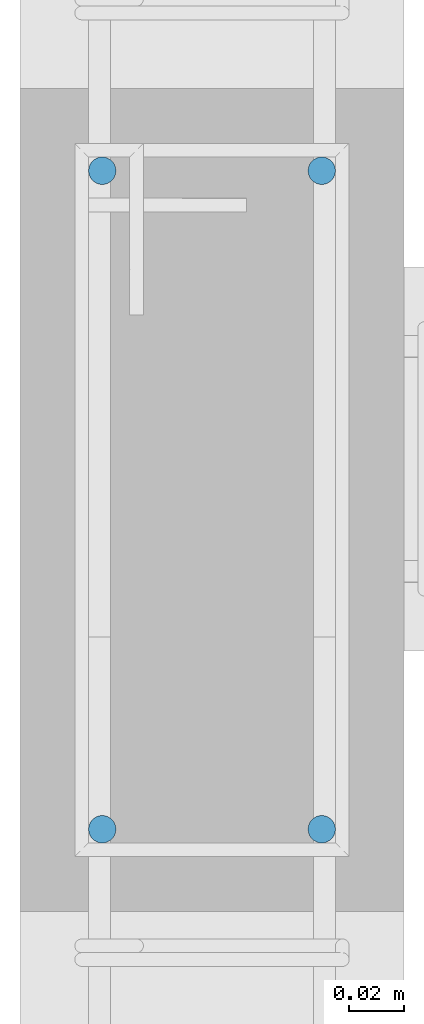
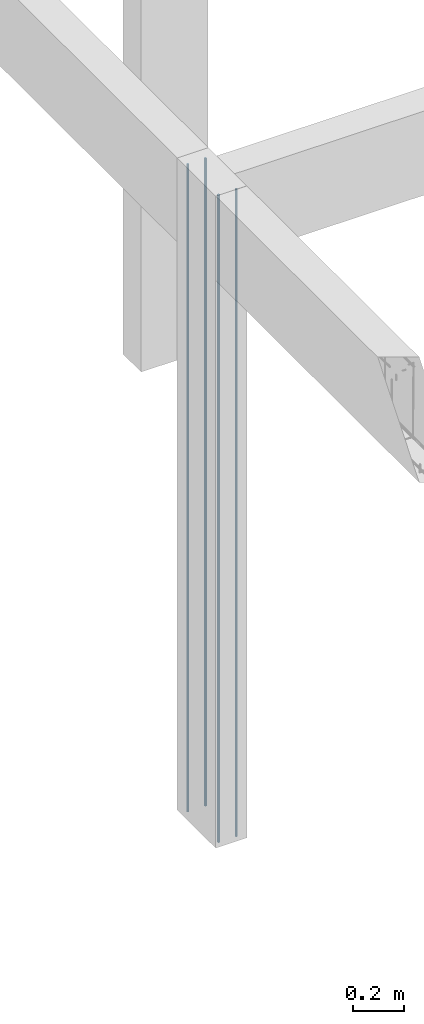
# One storey, part 94 of 236: 4 reinforcing bars.
"""IFC4 building model written with IfcOpenShell, lengths in centimetres."""

from ifc_helpers import new_model, entity, si_unit, derived_unit, frame, origin_with_axes, place, context, project, spatial, element, save


model = new_model("IFC4")

# Units and contexts
model_context = context("Model", 3, precision=1e-05, world=origin_with_axes(), identifier="Body")
ifc_project = project(units=[si_unit("LENGTHUNIT", "METRE", prefix="CENTI"), si_unit("VOLUMEUNIT", "CUBIC_METRE"), si_unit("AREAUNIT", "SQUARE_METRE"), si_unit("POWERUNIT", "WATT"), si_unit("LUMINOUSFLUXUNIT", "LUMEN"), si_unit("ELECTRICCURRENTUNIT", "AMPERE"), si_unit("PRESSUREUNIT", "PASCAL", prefix="KILO"), si_unit("MASSUNIT", "GRAM", prefix="KILO"), si_unit("PLANEANGLEUNIT", "RADIAN"), derived_unit("VOLUMETRICFLOWRATEUNIT", [(si_unit("LENGTHUNIT", "METRE"), 3), (si_unit("TIMEUNIT", "SECOND"), -1)])], contexts=[model_context])

# Site, building, storey
site_placement = place(None, frame((-4000.0, 0.0, 0.0), z_axis=(0.0, 0.0, 1.0), x_axis=(1.0, 0.0, 0.0)))
site = spatial("IfcSite", under=ifc_project, at=site_placement, Name="PADRÃO")
building_placement = place(site_placement, frame((0.0, 0.0, -14.0)))
building = spatial("IfcBuilding", under=site, at=building_placement, Name="CRECHE PRÉ-ESCOLA TIPO 2")
placement_1 = place(building_placement, origin_with_axes())
placement_2 = place(placement_1, frame((0.0, 0.0, 30.0), z_axis=(0.0, 0.0, 1.0), x_axis=(1.0, 0.0, 0.0)))
storey_placement = place(placement_2, frame((0.0, 0.0, 310.0), z_axis=(0.0, 0.0, 1.0), x_axis=(1.0, 0.0, 0.0)))
storey = spatial("IfcBuildingStorey", under=building, at=storey_placement, Name="TERREO", CompositionType="ELEMENT", Elevation=326.0)

# Reinforcing bars
for number, where, z_axis, x_axis, name in (
    (1, (2519.5, 2923.02, -2.0), (0.0, 0.0, 1.0), (1.0, 0.0, 0.0), "P60 - Longitudinal"),
    (2, (2519.5, 2899.02, -2.0), (0.0, 0.0, 1.0), (1.0, 0.0, 0.0), "P60 - Longitudinal"),
    (3, (2527.5, 2899.02, -2.0), (0.0, 0.0, 1.0), (1.0, 0.0, 0.0), "P60 - Longitudinal"),
    (4, (2527.5, 2923.02, -2.0), (0.0, 0.0, 1.0), (1.0, 0.0, 0.0), "P60 - Longitudinal"),
):
    element("IfcReinforcingBar", number, at=place(storey_placement, frame(where, z_axis=z_axis, x_axis=x_axis)), inside=storey, Name=name, BarLength=0.0, CrossSectionArea=7.853981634e-05, NominalDiameter=1.0, PredefinedType="MAIN", context=model_context, shape_type="AdvancedSweptSolid", body=[
        entity("IfcSweptDiskSolid", entity("IfcCompositeCurve", [entity("IfcCompositeCurveSegment", "CONTINUOUS", True, entity("IfcPolyline", [entity("IfcCartesianPoint", [0.0, 0.0, -308.0]), entity("IfcCartesianPoint", [0.0, 0.0, 0.0])]))], False), 0.5),
    ])

save(model, "model.ifc")
